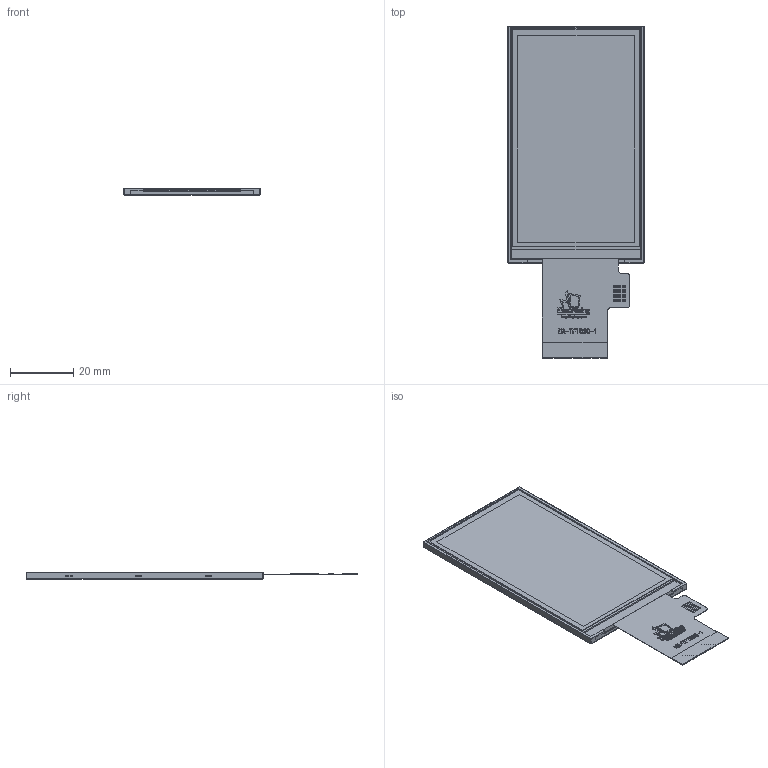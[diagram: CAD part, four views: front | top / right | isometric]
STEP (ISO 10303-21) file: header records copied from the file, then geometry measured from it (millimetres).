
FILE_DESCRIPTION (( 'STEP AP214' ), '1' );
FILE_NAME ('ER-TFT030-1.STEP', '2024-07-16T10:46:53', ( '微软用户' ), ( '微软中国' ), 'SwSTEP 2.0', 'SolidWorks 2023', '' );
FILE_SCHEMA (( 'AUTOMOTIVE_DESIGN' ));
Length unit declared in the file: millimetre
Products named in the file (1): ER-TFT030-1
Bounding box: 43.34 x 104.75 x 2.2 mm (x, y, z)
Volume: 6887.9 mm3; surface area: 9319.4 mm2
Topology: 44 solids, 44 shells, 745 faces, 2003 edges, 1362 vertices
Faces by surface type: plane 471, bspline 266, cylinder 8
Entity records: 34903 total; most frequent: CARTESIAN_POINT 16805, ORIENTED_EDGE 4006, DIRECTION 2431, EDGE_CURVE 2003, LINE 1455, VECTOR 1455, VERTEX_POINT 1362, EDGE_LOOP 785
